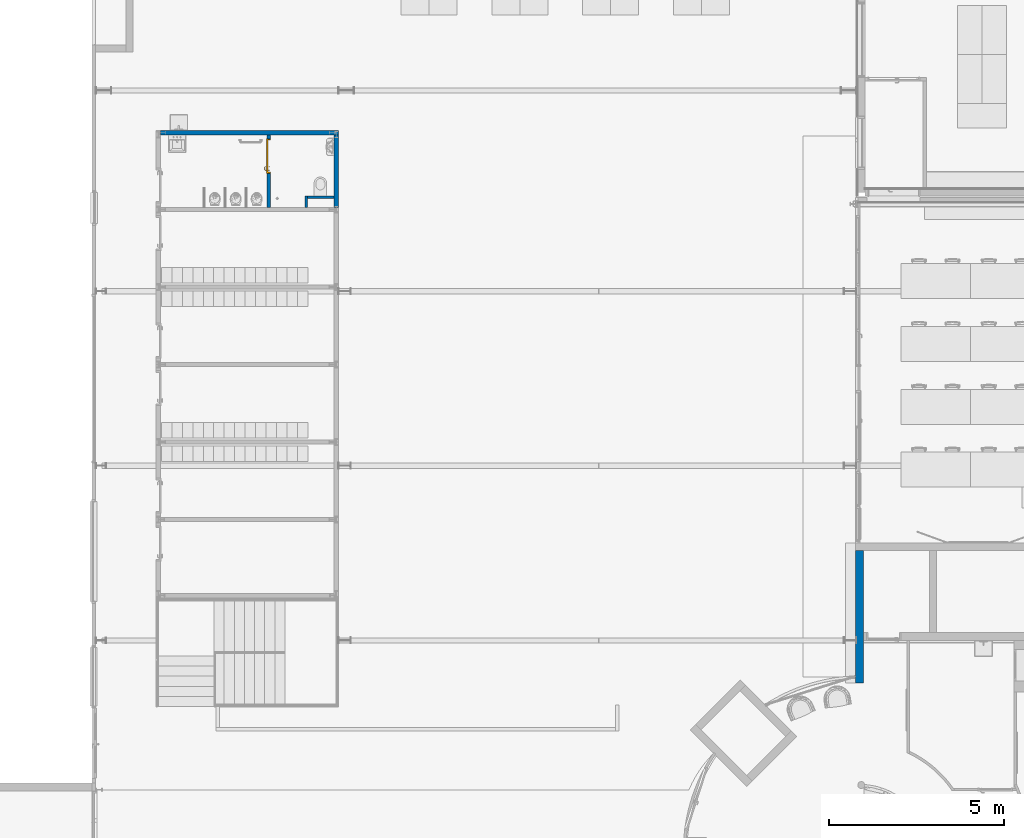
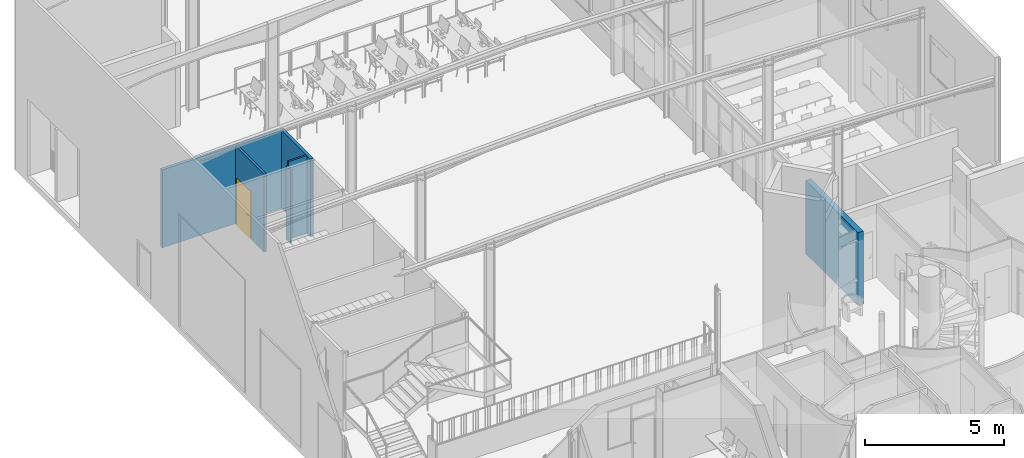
# One storey, part 52 of 137: 6 walls, 1 door, 1 opening.
"""IFC2X3 building model written with IfcOpenShell, lengths in centimetres."""

from ifc_helpers import new_model, entity, si_unit, converted_unit, derived_unit, direction, frame, frame_2d, origin, place, context, subcontext, project, spatial, polyline, rectangle, extrude, clip, bounded_halfspace, faceted_brep, source, transform, mapped, material, material_list, layer, layer_set, layer_usage, type_object, type_shapes, element, fill, save


model = new_model("IFC2X3")

# Units and contexts
model_context = context("Model", 3, precision=0.001, world=origin(), true_north=direction((6.12303176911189e-17, 1.0)))
body_context = subcontext(model_context, "Body", "Model", "MODEL_VIEW")
ifc_project = project(units=[si_unit("LENGTHUNIT", "METRE", prefix="CENTI"), si_unit("AREAUNIT", "SQUARE_METRE"), si_unit("VOLUMEUNIT", "CUBIC_METRE"), converted_unit("PLANEANGLEUNIT", "DEGREE", entity("IfcRatioMeasure", 0.0174532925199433), si_unit("PLANEANGLEUNIT", "RADIAN"), dimensions=[0, 0, 0, 0, 0, 0, 0]), si_unit("MASSUNIT", "GRAM", prefix="KILO"), si_unit("TIMEUNIT", "SECOND"), si_unit("FREQUENCYUNIT", "HERTZ"), si_unit("THERMODYNAMICTEMPERATUREUNIT", "DEGREE_CELSIUS"), derived_unit("THERMALTRANSMITTANCEUNIT", [(si_unit("MASSUNIT", "GRAM", prefix="KILO"), 1), (si_unit("THERMODYNAMICTEMPERATUREUNIT", "KELVIN"), -1), (si_unit("TIMEUNIT", "SECOND"), -3)]), derived_unit("VOLUMETRICFLOWRATEUNIT", [(si_unit("LENGTHUNIT", "METRE"), 3), (si_unit("TIMEUNIT", "SECOND"), -1)]), si_unit("ELECTRICCURRENTUNIT", "AMPERE"), si_unit("ELECTRICVOLTAGEUNIT", "VOLT"), si_unit("POWERUNIT", "WATT"), si_unit("FORCEUNIT", "NEWTON", prefix="KILO"), si_unit("ILLUMINANCEUNIT", "LUX"), si_unit("LUMINOUSFLUXUNIT", "LUMEN"), si_unit("LUMINOUSINTENSITYUNIT", "CANDELA"), derived_unit("USERDEFINED", [(si_unit("MASSUNIT", "GRAM", prefix="KILO"), -1), (si_unit("LENGTHUNIT", "METRE"), -2), (si_unit("TIMEUNIT", "SECOND"), 3), (si_unit("LUMINOUSFLUXUNIT", "LUMEN"), 1)]), derived_unit("LINEARVELOCITYUNIT", [(si_unit("LENGTHUNIT", "METRE"), 1), (si_unit("TIMEUNIT", "SECOND"), -1)]), si_unit("PRESSUREUNIT", "PASCAL"), derived_unit("USERDEFINED", [(si_unit("LENGTHUNIT", "METRE"), -2), (si_unit("MASSUNIT", "GRAM", prefix="KILO"), 1), (si_unit("TIMEUNIT", "SECOND"), -2)])], contexts=[model_context])

# Site, building, storey
site_placement = place(None, frame((8.62739174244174, -249.285249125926, 0.0)))
site = spatial("IfcSite", under=ifc_project, at=site_placement, Name="Default", CompositionType="ELEMENT")
building_placement = place(site_placement, origin())
building = spatial("IfcBuilding", under=site, at=building_placement, CompositionType="ELEMENT")
storey_placement = place(building_placement, origin())
storey = spatial("IfcBuildingStorey", under=building, at=storey_placement, Name="RDC", CompositionType="ELEMENT", Elevation=-8.82465566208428e-11)

# Wall
ifc_material_1 = material(Name="Plâtre")
ifc_layer_1 = layer(ifc_material_1, 2.0)
ifc_material_2 = material(Name="Maçonnerie")
ifc_layer_2 = layer(ifc_material_2, 20.0)
ifc_layer_set_1 = layer_set([ifc_layer_1, ifc_layer_2], Name="Mur de base:PLA 2 + PAR 20")
ifc_layer_usage_1 = layer_usage(ifc_layer_set_1, "AXIS2", "NEGATIVE", 11.0)
wall_type_1 = type_object("IfcWallType", Name="Mur de base:PLA 2 + PAR 20", PredefinedType="STANDARD", material=ifc_layer_set_1)
wall_1_placement = place(storey_placement, frame((3038.90482780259, 1239.48020807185, 0.0), z_axis=(0.0, 0.0, 1.0), x_axis=(0.0, 1.0, 0.0)))
element("IfcWallStandardCase", 1, at=wall_1_placement, inside=storey, type_object=wall_type_1, material=ifc_layer_usage_1, Name="Mur de base:PLA 2 + PAR 20", ObjectType="Mur de base:PLA 2 + PAR 20", context=body_context, shape_type="Clipping", body=[
    clip(extrude(rectangle(XDim=379.500000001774, YDim=22.0000000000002, at=frame_2d((189.750000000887, -1.08357767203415e-13), x_axis=(-1.0, 0.0))), origin(), (0.0, 0.0, 1.0), 322.000000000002), bounded_halfspace(frame((106.500292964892, -11.0, 322.0), z_axis=(0.0, 0.0, -1.0), x_axis=(0.0, 1.0, 0.0)), True, frame((106.500292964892, -11.0, 322.0)), polyline([(0.0, 0.0), (15.9997070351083, 0.0), (37.9997070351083, 0.0), (272.999707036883, 0.0), (272.999707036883, 22.0), (0.0, 22.0), (0.0, 0.0)]))),
])

# Wall, opening, door
ifc_layer_3 = layer(ifc_material_1, 10.0)
ifc_layer_set_2 = layer_set([ifc_layer_3], Name="Mur de base:PLA 10")
ifc_layer_usage_2 = layer_usage(ifc_layer_set_2, "AXIS2", "NEGATIVE", 5.0)
wall_type_2 = type_object("IfcWallType", Name="Mur de base:PLA 10", PredefinedType="STANDARD", material=ifc_layer_set_2)
wall_2_placement = place(storey_placement, frame((1345.90482780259, 2602.48020806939, 0.0), z_axis=(0.0, 0.0, 1.0), x_axis=(0.0, 1.0, 0.0)))
wall_2 = element("IfcWallStandardCase", 2, at=wall_2_placement, inside=storey, type_object=wall_type_2, material=ifc_layer_usage_2, Name="Mur de base:PLA 10", ObjectType="Mur de base:PLA 10", context=body_context, shape_type="SweptSolid", body=[
    extrude(rectangle(XDim=207.250000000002, YDim=9.99999999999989, at=frame_2d((103.625000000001, 3.99680288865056e-15), x_axis=(-1.0, 0.0))), origin(), (0.0, 0.0, 1.0), 343.000000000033),
])
opening_placement = place(wall_2_placement, frame((97.4000000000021, -5.0, 0.0)))
opening = element("IfcOpeningElement", 3, at=opening_placement, cuts=wall_2, Name="Simple(R)-bois_MU:93x204cm_MU:1", ObjectType="Opening", context=body_context, shape_type="SweptSolid", body=[
    extrude(rectangle(XDim=206.999999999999, YDim=98.9999999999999, at=frame_2d((103.499999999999, 49.4999999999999), x_axis=(1.0, 0.0))), frame((0.0, 0.0, 0.0), z_axis=(0.0, 1.0, 0.0), x_axis=(0.0, 0.0, 1.0)), (0.0, 0.0, 1.0), 10.0),
])
ifc_material_3 = material(Name="Porte-Poignée_MU")
ifc_material_4 = material(Name="Porte-Cadre_MU")
ifc_material_5 = material(Name="Porte Panneau_MU")
ifc_material_list_1 = material_list([ifc_material_3, ifc_material_4, ifc_material_5])
ifc_material_list_2 = material_list([ifc_material_3, ifc_material_4, ifc_material_5])
door_style = type_object("IfcDoorStyle", Name="93x204cm_MU", ConstructionType="NOTDEFINED", OperationType="SINGLE_SWING_LEFT", ParameterTakesPrecedence=False, Sizeable=False, material=ifc_material_list_2)
shared_shape = source(origin(), body_context, "Body", "Brep", [
    faceted_brep([(91.7025298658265, 3.69999999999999, 100.778044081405), (91.2974701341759, 3.69999999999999, 100.778044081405), (90.8999999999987, 3.69999999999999, 100.699999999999), (90.9000000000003, 3.69999999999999, 99.3000000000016), (91.2974701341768, 3.69999999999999, 99.2219559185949), (91.7025298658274, 3.69999999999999, 99.2219559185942), (92.1000000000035, 3.69999999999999, 99.2999999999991), (92.1000000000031, 3.69999999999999, 100.699999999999), (90.8999999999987, 5.94852045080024, 100.699999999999), (90.8999999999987, 5.94852045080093, 99.3000000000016), (91.2974701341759, 6.1131579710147, 100.778044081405), (91.7025298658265, 6.2809392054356, 100.778044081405), (90.0838906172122, 7.89957845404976, 100.778044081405), (89.9161093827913, 7.49451872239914, 100.778044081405), (81.5793122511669, 7.49451872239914, 100.778044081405), (81.4115310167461, 7.89957845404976, 100.778044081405), (80.6451046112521, 7.13315204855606, 100.778044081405), (80.9315250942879, 6.84673156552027, 100.778044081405), (92.1000000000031, 6.44557672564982, 100.699999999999), (92.1000000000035, 6.44557672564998, 99.2999999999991), (91.7025298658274, 6.28093920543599, 99.2219559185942), (91.2974701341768, 6.11315797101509, 99.2219559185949), (89.9161093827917, 7.49451872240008, 99.2219559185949), (90.0838906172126, 7.8995784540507, 99.2219559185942), (81.4115310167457, 7.8995784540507, 99.2219559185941), (81.5793122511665, 7.49451872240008, 99.2219559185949), (80.9315250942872, 6.84673156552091, 99.2219559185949), (80.6451046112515, 7.1331520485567, 99.2219559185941), (89.7514718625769, 7.09704858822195, 100.699999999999), (89.7514718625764, 7.09704858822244, 99.3000000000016), (90.2485281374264, 8.29704858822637, 100.699999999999), (90.2485281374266, 8.29704858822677, 99.2999999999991), (85.7477108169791, 7.09704858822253, 100.699999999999), (81.7439497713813, 7.09704858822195, 100.699999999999), (81.7439497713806, 7.09704858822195, 99.3000000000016), (85.7477108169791, 7.09704858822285, 99.3000000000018), (85.747710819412, 7.71249275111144, 100.787811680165), (85.2399422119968, 8.29704858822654, 100.699999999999), (81.2468934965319, 8.29704858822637, 100.699999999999), (86.2554791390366, 8.29704858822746, 99.2999999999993), (81.2468934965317, 8.29704858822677, 99.2999999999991), (85.7477107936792, 7.71249274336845, 99.2121883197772), (80.3640507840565, 7.41420587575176, 100.699999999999), (80.364050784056, 7.41420587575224, 99.2999999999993), (81.2125789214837, 6.56567773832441, 99.3000000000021), (81.2125789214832, 6.56567773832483, 100.699999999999)], [[[0, 1, 2, 3, 4, 5, 6, 7]], [[8, 9, 3, 2]], [[1, 10, 8, 2]], [[1, 0, 11, 12, 13, 10]], [[14, 15, 16, 17]], [[7, 18, 11, 0]], [[18, 7, 6, 19]], [[6, 5, 20, 19]], [[5, 4, 21, 22, 23, 20]], [[24, 25, 26, 27]], [[4, 3, 9, 21]], [[28, 29, 9, 8]], [[8, 10, 13, 28]], [[18, 30, 12, 11]], [[31, 30, 18, 19]], [[19, 20, 23, 31]], [[21, 9, 29, 22]], [[29, 28, 32, 33, 34, 35]], [[36, 32, 13]], [[37, 38, 15]], [[37, 12, 30]], [[36, 12, 37]], [[14, 32, 36]], [[36, 15, 14]], [[28, 13, 32]], [[32, 14, 33]], [[12, 36, 13]], [[15, 36, 37]], [[30, 31, 39, 40, 38, 37]], [[23, 41, 39]], [[24, 39, 41]], [[39, 31, 23]], [[39, 24, 40]], [[22, 35, 41]], [[41, 23, 22]], [[41, 35, 25]], [[35, 22, 29]], [[34, 25, 35]], [[24, 41, 25]], [[17, 16, 42, 43, 27, 26, 44, 45]], [[45, 44, 34, 33]], [[33, 14, 17, 45]], [[15, 38, 42, 16]], [[43, 42, 38, 40]], [[24, 27, 43, 40]], [[34, 44, 26, 25]]]),
    faceted_brep([(91.2974701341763, -1.30000000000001, 100.778044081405), (91.7025298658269, -1.30000000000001, 100.778044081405), (92.1000000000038, -1.30000000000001, 100.699999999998), (92.1000000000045, -1.30000000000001, 99.2999999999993), (91.7025298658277, -1.30000000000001, 99.2219559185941), (91.2974701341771, -1.30000000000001, 99.2219559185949), (90.899999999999, -1.30000000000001, 99.3000000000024), (90.8999999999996, -1.30000000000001, 100.699999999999), (91.7025298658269, -3.90045754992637, 100.778044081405), (92.100000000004, -4.06509507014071, 100.699999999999), (91.2974701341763, -3.73267631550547, 100.778044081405), (89.9298602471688, -5.10028620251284, 100.778044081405), (90.0976414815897, -5.50534593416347, 100.778044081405), (81.4142453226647, -5.50534593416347, 100.778044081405), (81.5820265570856, -5.10028620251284, 100.778044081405), (80.9342394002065, -4.4524990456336, 100.778044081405), (80.6478189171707, -4.73891952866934, 100.778044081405), (90.8999999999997, -3.56803879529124, 100.699999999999), (90.899999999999, -3.56803879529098, 99.3000000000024), (91.2974701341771, -3.7326763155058, 99.2219559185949), (91.7025298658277, -3.9004575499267, 99.2219559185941), (90.09764148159, -5.50534593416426, 99.2219559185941), (89.9298602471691, -5.10028620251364, 99.2219559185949), (81.5820265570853, -5.10028620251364, 99.2219559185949), (81.4142453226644, -5.50534593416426, 99.2219559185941), (80.6478189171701, -4.73891952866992, 99.2219559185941), (80.9342394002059, -4.45249904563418, 99.2219559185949), (92.1000000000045, -4.06509507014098, 99.2999999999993), (90.2622790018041, -5.90281606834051, 100.699999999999), (89.7652227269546, -4.70281606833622, 100.699999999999), (89.7652227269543, -4.70281606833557, 99.3000000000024), (90.2622790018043, -5.90281606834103, 99.2999999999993), (85.7559433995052, -5.31828027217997, 100.787811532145), (86.2692302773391, -5.90281606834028, 100.699999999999), (81.2496078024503, -5.90281606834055, 100.699999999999), (85.7559434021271, -4.70281606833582, 100.699999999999), (81.7466640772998, -4.70281606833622, 100.699999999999), (85.7559436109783, -4.70281606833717, 99.3000000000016), (81.7466640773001, -4.70281606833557, 99.3000000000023), (85.7559434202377, -5.31828027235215, 99.2121884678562), (85.2426572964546, -5.90281606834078, 99.2999999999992), (81.2496078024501, -5.90281606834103, 99.2999999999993), (81.2152932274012, -4.17144521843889, 99.3000000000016), (80.366765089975, -5.01997335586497, 99.2999999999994), (80.3667650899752, -5.01997335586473, 100.699999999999), (81.2152932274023, -4.17144521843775, 100.699999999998)], [[[0, 1, 2, 3, 4, 5, 6, 7]], [[2, 1, 8, 9]], [[1, 0, 10, 11, 12, 8]], [[13, 14, 15, 16]], [[0, 7, 17, 10]], [[18, 17, 7, 6]], [[5, 19, 18, 6]], [[5, 4, 20, 21, 22, 19]], [[23, 24, 25, 26]], [[3, 27, 20, 4]], [[9, 27, 3, 2]], [[9, 8, 12, 28]], [[10, 17, 29, 11]], [[30, 29, 17, 18]], [[18, 19, 22, 30]], [[20, 27, 31, 21]], [[28, 31, 27, 9]], [[12, 32, 33]], [[13, 33, 32]], [[33, 28, 12]], [[33, 13, 34]], [[11, 35, 32]], [[32, 12, 11]], [[32, 35, 14]], [[35, 11, 29]], [[36, 14, 35]], [[13, 32, 14]], [[29, 30, 37, 38, 36, 35]], [[39, 37, 22]], [[40, 41, 24]], [[40, 21, 31]], [[39, 21, 40]], [[23, 37, 39]], [[39, 24, 23]], [[30, 22, 37]], [[37, 23, 38]], [[21, 39, 22]], [[24, 39, 40]], [[31, 28, 33, 34, 41, 40]], [[42, 26, 25, 43, 44, 16, 15, 45]], [[13, 16, 44, 34]], [[36, 45, 15, 14]], [[42, 45, 36, 38]], [[38, 23, 26, 42]], [[24, 41, 43, 25]], [[44, 43, 41, 34]]]),
    faceted_brep([(91.5000000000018, 3.19999999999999, 86.4641016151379), (92.5352761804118, 3.19999999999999, 86.6003983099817), (93.5000000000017, 3.19999999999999, 87.0), (93.5000000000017, 3.19999999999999, 108.0), (92.5352761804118, 3.19999999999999, 108.399601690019), (91.5000000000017, 3.19999999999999, 108.535898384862), (90.4647238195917, 3.19999999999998, 108.399601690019), (89.5000000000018, 3.19999999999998, 108.0), (89.5000000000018, 3.19999999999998, 87.0), (90.4647238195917, 3.19999999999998, 86.6003983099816), (91.5000000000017, 3.69999999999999, 108.535898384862), (92.5352761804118, 3.69999999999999, 108.399601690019), (93.5000000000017, 3.69999999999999, 108.0), (93.5000000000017, 3.69999999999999, 87.0), (92.5352761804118, 3.69999999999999, 86.6003983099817), (91.5000000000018, 3.69999999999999, 86.4641016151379), (90.4647238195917, 3.69999999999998, 86.6003983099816), (89.5000000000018, 3.69999999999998, 87.0), (89.5000000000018, 3.69999999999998, 108.0), (90.4647238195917, 3.69999999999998, 108.399601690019)], [[[0, 1, 2, 3, 4, 5, 6, 7, 8, 9]], [[10, 11, 12, 13, 14, 15, 16, 17, 18, 19]], [[6, 19, 18, 7]], [[5, 10, 19, 6]], [[4, 11, 10, 5]], [[4, 3, 12, 11]], [[12, 3, 2, 13]], [[1, 14, 13, 2]], [[0, 15, 14, 1]], [[9, 16, 15, 0]], [[9, 8, 17, 16]], [[17, 8, 7, 18]]]),
    faceted_brep([(91.5000000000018, -1.30000000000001, 86.4641016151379), (92.5352761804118, -1.30000000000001, 86.6003983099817), (93.5000000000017, -1.3, 87.0), (93.5000000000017, -1.3, 108.0), (92.5352761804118, -1.30000000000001, 108.399601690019), (91.5000000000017, -1.30000000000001, 108.535898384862), (90.4647238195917, -1.30000000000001, 108.399601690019), (89.5000000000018, -1.30000000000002, 108.0), (89.5000000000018, -1.30000000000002, 87.0), (90.4647238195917, -1.30000000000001, 86.6003983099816), (93.5000000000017, -0.800000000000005, 108.0), (93.5000000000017, -0.800000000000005, 87.0), (92.5352761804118, -0.800000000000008, 86.6003983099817), (91.5000000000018, -0.800000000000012, 86.4641016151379), (90.4647238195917, -0.800000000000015, 86.6003983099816), (89.5000000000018, -0.800000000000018, 87.0), (89.5000000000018, -0.800000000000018, 108.0), (90.4647238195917, -0.800000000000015, 108.399601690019), (91.5000000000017, -0.800000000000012, 108.535898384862), (92.5352761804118, -0.800000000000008, 108.399601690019)], [[[0, 1, 2, 3, 4, 5, 6, 7, 8, 9]], [[10, 11, 12, 13, 14, 15, 16, 17, 18, 19]], [[1, 12, 11, 2]], [[0, 13, 12, 1]], [[9, 14, 13, 0]], [[9, 8, 15, 14]], [[15, 8, 7, 16]], [[6, 17, 16, 7]], [[5, 18, 17, 6]], [[4, 19, 18, 5]], [[4, 3, 10, 19]], [[10, 3, 2, 11]]]),
    faceted_brep([(100.0, 0.0, 0.0), (101.0, 0.0, 0.0), (101.0, -0.799999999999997, 0.0), (97.0, -0.799999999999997, 0.0), (97.0, 3.2, 0.0), (96.0, 3.2, 0.0), (96.0, 10.8000000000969, 0.0), (101.0, 10.8000000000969, 0.0), (101.0, 10.0, 0.0), (100.0, 10.0, 0.0), (100.0, 10.0, 207.0), (100.0, 0.0, 207.0), (101.0, 10.0, 208.0), (0.0, 10.0, 208.0), (0.0, 10.0, 0.0), (1.0, 10.0, 0.0), (1.0, 10.0, 207.0), (101.0, 10.8000000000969, 208.0), (96.0, 10.8000000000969, 203.0), (5.0, 10.8000000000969, 203.0), (5.0, 10.8000000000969, 0.0), (0.0, 10.8000000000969, 0.0), (0.0, 10.8000000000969, 208.0), (96.0, 3.2, 203.0), (97.0, 3.2, 204.0), (4.0, 3.2, 204.0), (4.0, 3.2, 0.0), (5.0, 3.2, 0.0), (5.0, 3.2, 203.0), (97.0, -0.799999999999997, 204.0), (101.0, -0.799999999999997, 208.0), (0.0, -0.799999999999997, 208.0), (0.0, -0.799999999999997, 0.0), (4.0, -0.799999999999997, 0.0), (4.0, -0.799999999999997, 204.0), (101.0, 0.0, 208.0), (1.0, 0.0, 207.0), (1.0, 0.0, 0.0), (0.0, 0.0, 0.0), (0.0, 0.0, 208.0)], [[[0, 1, 2, 3, 4, 5, 6, 7, 8, 9]], [[9, 10, 11, 0]], [[8, 12, 13, 14, 15, 16, 10, 9]], [[7, 17, 12, 8]], [[6, 18, 19, 20, 21, 22, 17, 7]], [[5, 23, 18, 6]], [[4, 24, 25, 26, 27, 28, 23, 5]], [[3, 29, 24, 4]], [[2, 30, 31, 32, 33, 34, 29, 3]], [[1, 35, 30, 2]], [[0, 11, 36, 37, 38, 39, 35, 1]], [[16, 15, 37, 36]], [[37, 15, 14, 21, 20, 27, 26, 33, 32, 38]], [[22, 21, 14, 13]], [[28, 27, 20, 19]], [[34, 33, 26, 25]], [[39, 38, 32, 31]], [[10, 16, 36, 11]], [[17, 22, 13, 12]], [[23, 28, 19, 18]], [[29, 34, 25, 24]], [[35, 39, 31, 30]]]),
    faceted_brep([(97.0, -0.799999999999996, 204.0), (4.0, -0.799999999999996, 204.0), (4.0, -0.799999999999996, 0.0), (97.0, -0.799999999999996, 0.0), (97.0, 3.2, 204.0), (97.0, 3.2, 0.0), (4.0, 3.2, 0.0), (4.0, 3.2, 204.0)], [[[0, 1, 2, 3]], [[4, 5, 6, 7]], [[3, 5, 4, 0]], [[2, 6, 5, 3]], [[1, 7, 6, 2]], [[0, 4, 7, 1]]]),
])
type_shapes(door_style, [shared_shape])
door_placement = place(opening_placement, frame((100.0, 10.0, 0.0), z_axis=(0.0, 0.0, 1.0), x_axis=(-1.0, 0.0, 0.0)))
door = element("IfcDoor", 4, at=door_placement, inside=storey, type_object=door_style, material=ifc_material_list_1, Name="Simple(R)-bois_MU:93x204cm_MU", ObjectType="93x204cm_MU", OverallHeight=206.999999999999, OverallWidth=99.0, context=body_context, shape_type="MappedRepresentation", body=[
    mapped(shared_shape, transform((0.0, 0.0, 0.0), scale=1.0)),
])
fill(opening, door)

# Walls
ifc_layer_4 = layer(ifc_material_1, 7.0)
ifc_layer_set_3 = layer_set([ifc_layer_4], Name="Mur de base:PLA 7")
ifc_layer_usage_3 = layer_usage(ifc_layer_set_3, "AXIS2", "NEGATIVE", 3.5)
wall_type_3 = type_object("IfcWallType", Name="Mur de base:PLA 7", PredefinedType="STANDARD", material=ifc_layer_set_3)
wall_3_placement = place(storey_placement, frame((1454.30482780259, 2602.48020806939, 0.0), z_axis=(0.0, 0.0, 1.0), x_axis=(0.0, 1.0, 0.0)))
element("IfcWallStandardCase", 5, at=wall_3_placement, inside=storey, type_object=wall_type_3, material=ifc_layer_usage_3, Name="Mur de base:PLA 7", ObjectType="Mur de base:PLA 7", context=body_context, shape_type="SweptSolid", body=[
    extrude(rectangle(XDim=32.1000000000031, YDim=7.00000000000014, at=frame_2d((16.0500000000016, 0.0), x_axis=(-1.0, 0.0))), origin(), (0.0, 0.0, 1.0), 322.000000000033),
])
ifc_layer_usage_4 = layer_usage(ifc_layer_set_3, "AXIS2", "NEGATIVE", 3.5)
wall_4_placement = place(storey_placement, frame((1457.80482780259, 2631.08020806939, 0.0)))
element("IfcWallStandardCase", 6, at=wall_4_placement, inside=storey, type_object=wall_type_3, material=ifc_layer_usage_4, Name="Mur de base:PLA 7", ObjectType="Mur de base:PLA 7", context=body_context, shape_type="SweptSolid", body=[
    extrude(rectangle(XDim=75.3499999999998, YDim=7.00000000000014, at=frame_2d((37.6749999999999, 0.0), x_axis=(-1.0, 0.0))), origin(), (0.0, 0.0, 1.0), 343.000000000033),
])
ifc_material_6 = material(Name="Tôle/Doublage")
ifc_layer_5 = layer(ifc_material_6, 2.0)
ifc_material_7 = material(Name="Laine minérale")
ifc_layer_6 = layer(ifc_material_7, 9.5)
ifc_material_8 = material(Name="Plâtre_MU")
ifc_layer_7 = layer(ifc_material_8, 1.25)
ifc_layer_set_4 = layer_set([ifc_layer_5, ifc_layer_6, ifc_layer_7], Name="Mur de base:PLA 1.25 + ISO 9.5 + MET 4")
ifc_layer_usage_5 = layer_usage(ifc_layer_set_4, "AXIS2", "POSITIVE", -6.375)
wall_type_4 = type_object("IfcWallType", Name="Mur de base:PLA 1.25 + ISO 9.5 + MET 4", PredefinedType="STANDARD", material=ifc_layer_set_4)
wall_5_placement = place(storey_placement, frame((1539.52982780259, 2602.48020806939, 0.0), z_axis=(0.0, 0.0, 1.0), x_axis=(0.0, 1.0, 0.0)))
element("IfcWallStandardCase", 7, at=wall_5_placement, inside=storey, type_object=wall_type_4, material=ifc_layer_usage_5, Name="Mur de base:PLA 1.25 + ISO 9.5 + MET 4", ObjectType="Mur de base:PLA 1.25 + ISO 9.5 + MET 4", context=body_context, shape_type="SweptSolid", body=[
    extrude(rectangle(XDim=207.250000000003, YDim=12.7500000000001, at=frame_2d((103.625000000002, 2.79776202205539e-14), x_axis=(-1.0, 0.0))), origin(), (0.0, 0.0, 1.0), 343.000000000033),
])
ifc_layer_usage_6 = layer_usage(ifc_layer_set_4, "AXIS2", "POSITIVE", -6.375)
wall_6_placement = place(storey_placement, frame((1545.90482780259, 2816.10520806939, 0.0), z_axis=(0.0, 0.0, 1.0), x_axis=(-1.0, 0.0, 0.0)))
element("IfcWallStandardCase", 8, at=wall_6_placement, inside=storey, type_object=wall_type_4, material=ifc_layer_usage_6, Name="Mur de base:PLA 1.25 + ISO 9.5 + MET 4", ObjectType="Mur de base:PLA 1.25 + ISO 9.5 + MET 4", context=body_context, shape_type="SweptSolid", body=[
    extrude(rectangle(XDim=509.249999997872, YDim=12.7499999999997, at=frame_2d((254.624999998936, 4.08562073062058e-14), x_axis=(-1.0, 0.0))), origin(), (0.0, 0.0, 1.0), 343.000000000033),
])

save(model, "model.ifc")
